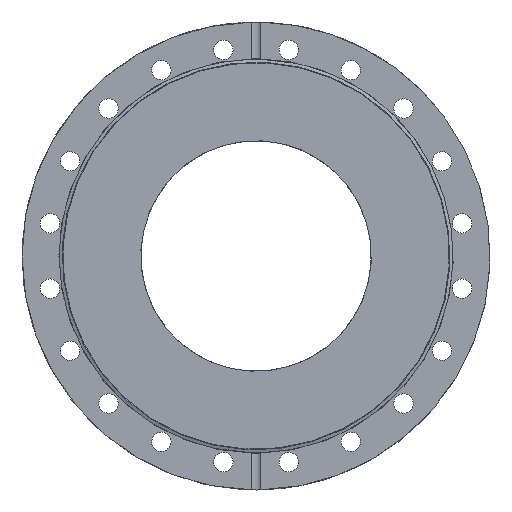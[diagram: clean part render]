
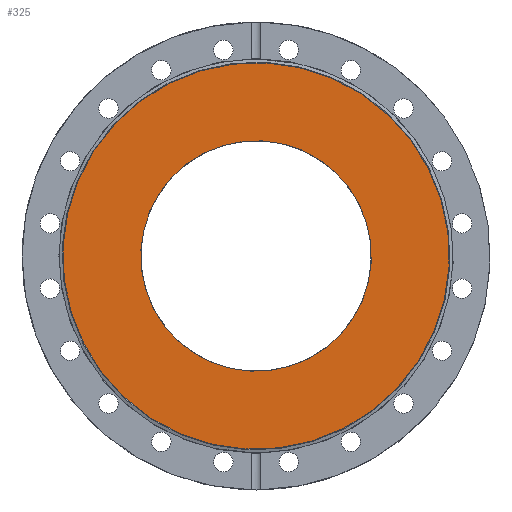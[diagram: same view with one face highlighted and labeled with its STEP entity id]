
A CAD part, left-side view. The second image highlights one B-rep face of the part: STEP entity #325.
In plain terms, the highlighted planar face has unit normal (-1, 0, 0).
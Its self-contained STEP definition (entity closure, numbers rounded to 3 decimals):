
#325 = ADVANCED_FACE( '', ( #708, #709 ), #710, .F. );
#708 = FACE_OUTER_BOUND( '', #1089, .T. );
#709 = FACE_BOUND( '', #1090, .T. );
#710 = PLANE( '', #1091 );
#1089 = EDGE_LOOP( '', ( #1575 ) );
#1090 = EDGE_LOOP( '', ( #1576 ) );
#1091 = AXIS2_PLACEMENT_3D( '', #1577, #1578, #1579 );
#1575 = ORIENTED_EDGE( '', *, *, #1757, .T. );
#1576 = ORIENTED_EDGE( '', *, *, #1797, .F. );
#1577 = CARTESIAN_POINT( '', ( -21., 0., 83.835 ) );
#1578 = DIRECTION( '', ( 1., 0., 0. ) );
#1579 = DIRECTION( '', ( 0., 1., 0. ) );
#1757 = EDGE_CURVE( '', #2020, #2020, #2021, .T. );
#1797 = EDGE_CURVE( '', #2085, #2085, #2086, .T. );
#2020 = VERTEX_POINT( '', #2402 );
#2021 = CIRCLE( '', #2403, 83.835 );
#2085 = VERTEX_POINT( '', #2468 );
#2086 = CIRCLE( '', #2469, 50. );
#2402 = CARTESIAN_POINT( '', ( -21., 0., 83.835 ) );
#2403 = AXIS2_PLACEMENT_3D( '', #2768, #2769, #2770 );
#2468 = CARTESIAN_POINT( '', ( -21., 0., 50. ) );
#2469 = AXIS2_PLACEMENT_3D( '', #2844, #2845, #2846 );
#2768 = CARTESIAN_POINT( '', ( -21., 0., 0. ) );
#2769 = DIRECTION( '', ( -1., 0., 0. ) );
#2770 = DIRECTION( '', ( 0., 0., 1. ) );
#2844 = CARTESIAN_POINT( '', ( -21., 0., 0. ) );
#2845 = DIRECTION( '', ( -1., 0., 0. ) );
#2846 = DIRECTION( '', ( 0., 0., 1. ) );
